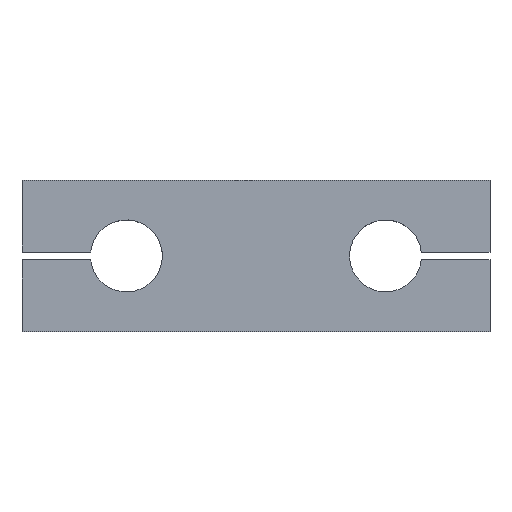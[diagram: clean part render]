
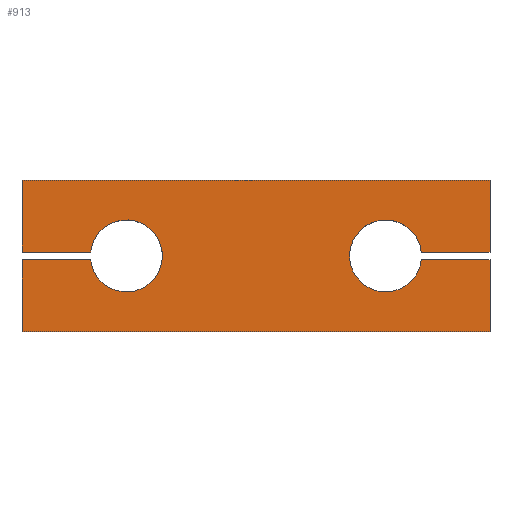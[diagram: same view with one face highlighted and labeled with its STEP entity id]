
A CAD part, top view. The second image highlights one B-rep face of the part: STEP entity #913.
In plain terms, the highlighted planar face has unit normal (0, 0, 1).
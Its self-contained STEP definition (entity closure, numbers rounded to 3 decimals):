
#6 = DIRECTION ( 'NONE',  ( 0., 0., 1. ) ) ;
#16 = CARTESIAN_POINT ( 'NONE',  ( 65., -21., 10. ) ) ;
#30 = CARTESIAN_POINT ( 'NONE',  ( -65., -1.075, 10. ) ) ;
#52 = DIRECTION ( 'NONE',  ( -1., 0., 0. ) ) ;
#55 = CARTESIAN_POINT ( 'NONE',  ( 35., -1.075, 10. ) ) ;
#65 = LINE ( 'NONE', #378, #1201 ) ;
#80 = PLANE ( 'NONE',  #185 ) ;
#89 = EDGE_CURVE ( 'NONE', #1027, #863, #589, .T. ) ;
#92 = DIRECTION ( 'NONE',  ( -1., 0., 0. ) ) ;
#94 = ORIENTED_EDGE ( 'NONE', *, *, #1142, .T. ) ;
#102 = EDGE_CURVE ( 'NONE', #727, #867, #65, .T. ) ;
#124 = VECTOR ( 'NONE', #474, 1000. ) ;
#137 = CARTESIAN_POINT ( 'NONE',  ( -65., -21., 10. ) ) ;
#148 = CARTESIAN_POINT ( 'NONE',  ( -45.942, -1.075, 10. ) ) ;
#150 = ORIENTED_EDGE ( 'NONE', *, *, #1313, .T. ) ;
#166 = LINE ( 'NONE', #862, #803 ) ;
#185 = AXIS2_PLACEMENT_3D ( 'NONE', #1125, #582, #497 ) ;
#190 = CARTESIAN_POINT ( 'NONE',  ( 65., 1.075, 10. ) ) ;
#194 = EDGE_CURVE ( 'NONE', #232, #708, #911, .T. ) ;
#201 = EDGE_CURVE ( 'NONE', #359, #232, #1158, .T. ) ;
#221 = DIRECTION ( 'NONE',  ( -1., 0., 0. ) ) ;
#227 = CIRCLE ( 'NONE', #764, 10. ) ;
#232 = VERTEX_POINT ( 'NONE', #304 ) ;
#304 = CARTESIAN_POINT ( 'NONE',  ( -26., 0., 10. ) ) ;
#354 = CARTESIAN_POINT ( 'NONE',  ( 45.942, 1.075, 10. ) ) ;
#356 = LINE ( 'NONE', #755, #676 ) ;
#359 = VERTEX_POINT ( 'NONE', #148 ) ;
#361 = ORIENTED_EDGE ( 'NONE', *, *, #797, .F. ) ;
#373 = EDGE_CURVE ( 'NONE', #476, #359, #1081, .T. ) ;
#376 = CARTESIAN_POINT ( 'NONE',  ( 65., -1.075, 10. ) ) ;
#378 = CARTESIAN_POINT ( 'NONE',  ( 65., 21., 10. ) ) ;
#382 = DIRECTION ( 'NONE',  ( 0., 1., 0. ) ) ;
#389 = CARTESIAN_POINT ( 'NONE',  ( -65., 21., 10. ) ) ;
#408 = CARTESIAN_POINT ( 'NONE',  ( -65., 21., 10. ) ) ;
#461 = EDGE_CURVE ( 'NONE', #708, #863, #166, .T. ) ;
#474 = DIRECTION ( 'NONE',  ( 1., 0., 0. ) ) ;
#475 = VERTEX_POINT ( 'NONE', #354 ) ;
#476 = VERTEX_POINT ( 'NONE', #30 ) ;
#477 = EDGE_CURVE ( 'NONE', #475, #982, #227, .T. ) ;
#482 = ORIENTED_EDGE ( 'NONE', *, *, #461, .F. ) ;
#493 = DIRECTION ( 'NONE',  ( 0., -1., 0. ) ) ;
#497 = DIRECTION ( 'NONE',  ( 1., 0., 0. ) ) ;
#501 = FACE_OUTER_BOUND ( 'NONE', #1128, .T. ) ;
#506 = VERTEX_POINT ( 'NONE', #704 ) ;
#529 = AXIS2_PLACEMENT_3D ( 'NONE', #1154, #1044, #838 ) ;
#536 = CARTESIAN_POINT ( 'NONE',  ( -45.942, 1.075, 10. ) ) ;
#554 = VECTOR ( 'NONE', #221, 1000. ) ;
#555 = DIRECTION ( 'NONE',  ( 1., 0., 0. ) ) ;
#564 = LINE ( 'NONE', #55, #124 ) ;
#566 = ORIENTED_EDGE ( 'NONE', *, *, #698, .T. ) ;
#582 = DIRECTION ( 'NONE',  ( 0., 0., 1. ) ) ;
#586 = AXIS2_PLACEMENT_3D ( 'NONE', #845, #6, #625 ) ;
#589 = LINE ( 'NONE', #389, #716 ) ;
#617 = LINE ( 'NONE', #408, #1248 ) ;
#622 = CARTESIAN_POINT ( 'NONE',  ( -65., 21., 10. ) ) ;
#625 = DIRECTION ( 'NONE',  ( 1., 0., 0. ) ) ;
#639 = VECTOR ( 'NONE', #1178, 1000. ) ;
#643 = DIRECTION ( 'NONE',  ( 0., 1., 0. ) ) ;
#676 = VECTOR ( 'NONE', #643, 1000. ) ;
#698 = EDGE_CURVE ( 'NONE', #974, #1075, #356, .T. ) ;
#704 = CARTESIAN_POINT ( 'NONE',  ( -65., -21., 10. ) ) ;
#708 = VERTEX_POINT ( 'NONE', #536 ) ;
#716 = VECTOR ( 'NONE', #493, 1000. ) ;
#727 = VERTEX_POINT ( 'NONE', #16 ) ;
#755 = CARTESIAN_POINT ( 'NONE',  ( 65., 21., 10. ) ) ;
#764 = AXIS2_PLACEMENT_3D ( 'NONE', #1035, #811, #1218 ) ;
#797 = EDGE_CURVE ( 'NONE', #982, #867, #564, .T. ) ;
#803 = VECTOR ( 'NONE', #52, 1000. ) ;
#811 = DIRECTION ( 'NONE',  ( 0., 0., 1. ) ) ;
#834 = VECTOR ( 'NONE', #859, 1000. ) ;
#838 = DIRECTION ( 'NONE',  ( 1., 0., 0. ) ) ;
#845 = CARTESIAN_POINT ( 'NONE',  ( -36., 0., 10. ) ) ;
#852 = ORIENTED_EDGE ( 'NONE', *, *, #102, .T. ) ;
#859 = DIRECTION ( 'NONE',  ( 1., 0., 0. ) ) ;
#862 = CARTESIAN_POINT ( 'NONE',  ( -65., 1.075, 10. ) ) ;
#863 = VERTEX_POINT ( 'NONE', #980 ) ;
#867 = VERTEX_POINT ( 'NONE', #376 ) ;
#911 = CIRCLE ( 'NONE', #529, 10. ) ;
#913 = ADVANCED_FACE ( 'NONE', ( #501 ), #80, .T. ) ;
#918 = ORIENTED_EDGE ( 'NONE', *, *, #373, .F. ) ;
#924 = CARTESIAN_POINT ( 'NONE',  ( 35., 1.075, 10. ) ) ;
#935 = CARTESIAN_POINT ( 'NONE',  ( 45.942, -1.075, 10. ) ) ;
#948 = ORIENTED_EDGE ( 'NONE', *, *, #201, .F. ) ;
#950 = CARTESIAN_POINT ( 'NONE',  ( 65., 21., 10. ) ) ;
#961 = CARTESIAN_POINT ( 'NONE',  ( -65., -1.075, 10. ) ) ;
#974 = VERTEX_POINT ( 'NONE', #190 ) ;
#980 = CARTESIAN_POINT ( 'NONE',  ( -65., 1.075, 10. ) ) ;
#982 = VERTEX_POINT ( 'NONE', #935 ) ;
#1027 = VERTEX_POINT ( 'NONE', #622 ) ;
#1035 = CARTESIAN_POINT ( 'NONE',  ( 36., 0., 10. ) ) ;
#1044 = DIRECTION ( 'NONE',  ( 0., 0., 1. ) ) ;
#1052 = LINE ( 'NONE', #1062, #639 ) ;
#1062 = CARTESIAN_POINT ( 'NONE',  ( -65., 21., 10. ) ) ;
#1075 = VERTEX_POINT ( 'NONE', #950 ) ;
#1077 = ORIENTED_EDGE ( 'NONE', *, *, #89, .T. ) ;
#1081 = LINE ( 'NONE', #961, #1220 ) ;
#1097 = ORIENTED_EDGE ( 'NONE', *, *, #194, .F. ) ;
#1125 = CARTESIAN_POINT ( 'NONE',  ( 0., 0., 10. ) ) ;
#1128 = EDGE_LOOP ( 'NONE', ( #482, #1097, #948, #918, #150, #1282, #852, #361, #1217, #1291, #566, #94, #1077 ) ) ;
#1142 = EDGE_CURVE ( 'NONE', #1075, #1027, #617, .T. ) ;
#1153 = LINE ( 'NONE', #924, #554 ) ;
#1154 = CARTESIAN_POINT ( 'NONE',  ( -36., 0., 10. ) ) ;
#1158 = CIRCLE ( 'NONE', #586, 10. ) ;
#1163 = EDGE_CURVE ( 'NONE', #974, #475, #1153, .T. ) ;
#1178 = DIRECTION ( 'NONE',  ( 0., -1., 0. ) ) ;
#1201 = VECTOR ( 'NONE', #382, 1000. ) ;
#1217 = ORIENTED_EDGE ( 'NONE', *, *, #477, .F. ) ;
#1218 = DIRECTION ( 'NONE',  ( 1., 0., 0. ) ) ;
#1220 = VECTOR ( 'NONE', #555, 1000. ) ;
#1248 = VECTOR ( 'NONE', #92, 1000. ) ;
#1250 = EDGE_CURVE ( 'NONE', #506, #727, #1272, .T. ) ;
#1272 = LINE ( 'NONE', #137, #834 ) ;
#1282 = ORIENTED_EDGE ( 'NONE', *, *, #1250, .T. ) ;
#1291 = ORIENTED_EDGE ( 'NONE', *, *, #1163, .F. ) ;
#1313 = EDGE_CURVE ( 'NONE', #476, #506, #1052, .T. ) ;
